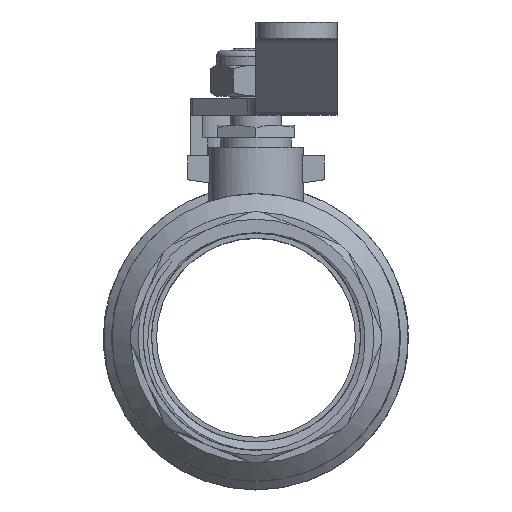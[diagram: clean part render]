
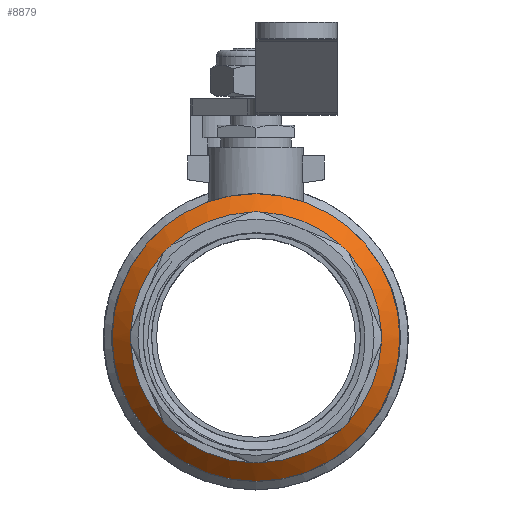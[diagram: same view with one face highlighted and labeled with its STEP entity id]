
A CAD part, top view. The second image highlights one B-rep face of the part: STEP entity #8879.
In plain terms, the highlighted conical face has half-angle 45 degrees and reference radius 36.532 mm.
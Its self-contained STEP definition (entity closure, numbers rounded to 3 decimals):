
#148=FACE_BOUND('',#1867,.T.);
#171=CONICAL_SURFACE('',#9562,36.532,0.785);
#541=CIRCLE('',#9171,39.032);
#641=CIRCLE('',#9399,34.032);
#642=CIRCLE('',#9401,34.032);
#643=CIRCLE('',#9403,34.032);
#644=CIRCLE('',#9405,34.032);
#645=CIRCLE('',#9407,34.032);
#646=CIRCLE('',#9409,34.032);
#647=CIRCLE('',#9411,34.032);
#648=CIRCLE('',#9413,34.032);
#650=CIRCLE('',#9424,34.032);
#651=CIRCLE('',#9426,34.032);
#653=CIRCLE('',#9429,34.032);
#655=CIRCLE('',#9432,34.032);
#657=CIRCLE('',#9435,34.032);
#659=CIRCLE('',#9438,34.032);
#661=CIRCLE('',#9441,34.032);
#711=CIRCLE('',#9561,34.032);
#1293=FACE_OUTER_BOUND('',#1866,.T.);
#1866=EDGE_LOOP('',(#8177));
#1867=EDGE_LOOP('',(#8178,#8179,#8180,#8181,#8182,#8183,#8184,#8185,#8186,
#8187,#8188,#8189,#8190,#8191,#8192,#8193));
#3862=VERTEX_POINT('',#20008);
#4158=VERTEX_POINT('',#23225);
#4159=VERTEX_POINT('',#23226);
#4160=VERTEX_POINT('',#23230);
#4161=VERTEX_POINT('',#23231);
#4162=VERTEX_POINT('',#23235);
#4163=VERTEX_POINT('',#23236);
#4164=VERTEX_POINT('',#23240);
#4165=VERTEX_POINT('',#23241);
#4166=VERTEX_POINT('',#23245);
#4167=VERTEX_POINT('',#23246);
#4168=VERTEX_POINT('',#23250);
#4169=VERTEX_POINT('',#23251);
#4170=VERTEX_POINT('',#23255);
#4171=VERTEX_POINT('',#23256);
#4172=VERTEX_POINT('',#23260);
#4173=VERTEX_POINT('',#23261);
#4935=EDGE_CURVE('',#3862,#3862,#541,.T.);
#5392=EDGE_CURVE('',#4158,#4159,#641,.T.);
#5394=EDGE_CURVE('',#4160,#4161,#642,.T.);
#5396=EDGE_CURVE('',#4162,#4163,#643,.T.);
#5398=EDGE_CURVE('',#4164,#4165,#644,.T.);
#5400=EDGE_CURVE('',#4166,#4167,#645,.T.);
#5402=EDGE_CURVE('',#4168,#4169,#646,.T.);
#5404=EDGE_CURVE('',#4170,#4171,#647,.T.);
#5406=EDGE_CURVE('',#4172,#4173,#648,.T.);
#5441=EDGE_CURVE('',#4173,#4158,#650,.T.);
#5442=EDGE_CURVE('',#4159,#4160,#651,.T.);
#5444=EDGE_CURVE('',#4161,#4162,#653,.T.);
#5446=EDGE_CURVE('',#4163,#4164,#655,.T.);
#5448=EDGE_CURVE('',#4165,#4166,#657,.T.);
#5450=EDGE_CURVE('',#4167,#4168,#659,.T.);
#5452=EDGE_CURVE('',#4169,#4170,#661,.T.);
#5587=EDGE_CURVE('',#4171,#4172,#711,.T.);
#8177=ORIENTED_EDGE('',*,*,#4935,.F.);
#8178=ORIENTED_EDGE('',*,*,#5452,.T.);
#8179=ORIENTED_EDGE('',*,*,#5404,.T.);
#8180=ORIENTED_EDGE('',*,*,#5587,.T.);
#8181=ORIENTED_EDGE('',*,*,#5406,.T.);
#8182=ORIENTED_EDGE('',*,*,#5441,.T.);
#8183=ORIENTED_EDGE('',*,*,#5392,.T.);
#8184=ORIENTED_EDGE('',*,*,#5442,.T.);
#8185=ORIENTED_EDGE('',*,*,#5394,.T.);
#8186=ORIENTED_EDGE('',*,*,#5444,.T.);
#8187=ORIENTED_EDGE('',*,*,#5396,.T.);
#8188=ORIENTED_EDGE('',*,*,#5446,.T.);
#8189=ORIENTED_EDGE('',*,*,#5398,.T.);
#8190=ORIENTED_EDGE('',*,*,#5448,.T.);
#8191=ORIENTED_EDGE('',*,*,#5400,.T.);
#8192=ORIENTED_EDGE('',*,*,#5450,.T.);
#8193=ORIENTED_EDGE('',*,*,#5402,.T.);
#8879=ADVANCED_FACE('',(#1293,#148),#171,.T.);
#9171=AXIS2_PLACEMENT_3D('',#20009,#10422,#10423);
#9399=AXIS2_PLACEMENT_3D('',#23227,#11082,#11083);
#9401=AXIS2_PLACEMENT_3D('',#23232,#11087,#11088);
#9403=AXIS2_PLACEMENT_3D('',#23237,#11092,#11093);
#9405=AXIS2_PLACEMENT_3D('',#23242,#11097,#11098);
#9407=AXIS2_PLACEMENT_3D('',#23247,#11102,#11103);
#9409=AXIS2_PLACEMENT_3D('',#23252,#11107,#11108);
#9411=AXIS2_PLACEMENT_3D('',#23257,#11112,#11113);
#9413=AXIS2_PLACEMENT_3D('',#23262,#11117,#11118);
#9424=AXIS2_PLACEMENT_3D('',#23354,#11156,#11157);
#9426=AXIS2_PLACEMENT_3D('',#23356,#11160,#11161);
#9429=AXIS2_PLACEMENT_3D('',#23359,#11166,#11167);
#9432=AXIS2_PLACEMENT_3D('',#23362,#11172,#11173);
#9435=AXIS2_PLACEMENT_3D('',#23365,#11178,#11179);
#9438=AXIS2_PLACEMENT_3D('',#23368,#11184,#11185);
#9441=AXIS2_PLACEMENT_3D('',#23371,#11190,#11191);
#9561=AXIS2_PLACEMENT_3D('',#23755,#11495,#11496);
#9562=AXIS2_PLACEMENT_3D('',#23756,#11497,#11498);
#10422=DIRECTION('center_axis',(0.,0.,-1.));
#10423=DIRECTION('ref_axis',(1.,0.,0.));
#11082=DIRECTION('center_axis',(0.,0.,-1.));
#11083=DIRECTION('ref_axis',(1.,0.,0.));
#11087=DIRECTION('center_axis',(0.,0.,-1.));
#11088=DIRECTION('ref_axis',(1.,0.,0.));
#11092=DIRECTION('center_axis',(0.,0.,-1.));
#11093=DIRECTION('ref_axis',(1.,0.,0.));
#11097=DIRECTION('center_axis',(0.,0.,-1.));
#11098=DIRECTION('ref_axis',(1.,0.,0.));
#11102=DIRECTION('center_axis',(0.,0.,-1.));
#11103=DIRECTION('ref_axis',(1.,0.,0.));
#11107=DIRECTION('center_axis',(0.,0.,-1.));
#11108=DIRECTION('ref_axis',(1.,0.,0.));
#11112=DIRECTION('center_axis',(0.,0.,-1.));
#11113=DIRECTION('ref_axis',(1.,0.,0.));
#11117=DIRECTION('center_axis',(0.,0.,-1.));
#11118=DIRECTION('ref_axis',(1.,0.,0.));
#11156=DIRECTION('center_axis',(0.,0.,-1.));
#11157=DIRECTION('ref_axis',(1.,0.,0.));
#11160=DIRECTION('center_axis',(0.,0.,-1.));
#11161=DIRECTION('ref_axis',(1.,0.,0.));
#11166=DIRECTION('center_axis',(0.,0.,-1.));
#11167=DIRECTION('ref_axis',(1.,0.,0.));
#11172=DIRECTION('center_axis',(0.,0.,-1.));
#11173=DIRECTION('ref_axis',(1.,0.,0.));
#11178=DIRECTION('center_axis',(0.,0.,-1.));
#11179=DIRECTION('ref_axis',(1.,0.,0.));
#11184=DIRECTION('center_axis',(0.,0.,-1.));
#11185=DIRECTION('ref_axis',(1.,0.,0.));
#11190=DIRECTION('center_axis',(0.,0.,-1.));
#11191=DIRECTION('ref_axis',(1.,0.,0.));
#11495=DIRECTION('center_axis',(0.,0.,-1.));
#11496=DIRECTION('ref_axis',(1.,0.,0.));
#11497=DIRECTION('center_axis',(0.,0.,-1.));
#11498=DIRECTION('ref_axis',(0.,-1.,0.));
#20008=CARTESIAN_POINT('',(0.,-39.032,30.86));
#20009=CARTESIAN_POINT('Origin',(0.,0.,30.86));
#23225=CARTESIAN_POINT('',(-33.997,1.544,35.86));
#23226=CARTESIAN_POINT('',(-25.131,22.948,35.86));
#23227=CARTESIAN_POINT('Origin',(0.,0.,35.86));
#23230=CARTESIAN_POINT('',(-22.948,25.131,35.86));
#23231=CARTESIAN_POINT('',(-1.544,33.997,35.86));
#23232=CARTESIAN_POINT('Origin',(0.,0.,35.86));
#23235=CARTESIAN_POINT('',(1.544,33.997,35.86));
#23236=CARTESIAN_POINT('',(22.948,25.131,35.86));
#23237=CARTESIAN_POINT('Origin',(0.,0.,35.86));
#23240=CARTESIAN_POINT('',(25.131,22.948,35.86));
#23241=CARTESIAN_POINT('',(33.997,1.544,35.86));
#23242=CARTESIAN_POINT('Origin',(0.,0.,35.86));
#23245=CARTESIAN_POINT('',(33.997,-1.544,35.86));
#23246=CARTESIAN_POINT('',(25.131,-22.948,35.86));
#23247=CARTESIAN_POINT('Origin',(0.,0.,35.86));
#23250=CARTESIAN_POINT('',(22.948,-25.131,35.86));
#23251=CARTESIAN_POINT('',(1.544,-33.997,35.86));
#23252=CARTESIAN_POINT('Origin',(0.,0.,35.86));
#23255=CARTESIAN_POINT('',(-1.544,-33.997,35.86));
#23256=CARTESIAN_POINT('',(-22.948,-25.131,35.86));
#23257=CARTESIAN_POINT('Origin',(0.,0.,35.86));
#23260=CARTESIAN_POINT('',(-25.131,-22.948,35.86));
#23261=CARTESIAN_POINT('',(-33.997,-1.544,35.86));
#23262=CARTESIAN_POINT('Origin',(0.,0.,35.86));
#23354=CARTESIAN_POINT('Origin',(0.,0.,35.86));
#23356=CARTESIAN_POINT('Origin',(0.,0.,35.86));
#23359=CARTESIAN_POINT('Origin',(0.,0.,35.86));
#23362=CARTESIAN_POINT('Origin',(0.,0.,35.86));
#23365=CARTESIAN_POINT('Origin',(0.,0.,35.86));
#23368=CARTESIAN_POINT('Origin',(0.,0.,35.86));
#23371=CARTESIAN_POINT('Origin',(0.,0.,35.86));
#23755=CARTESIAN_POINT('Origin',(0.,0.,35.86));
#23756=CARTESIAN_POINT('Origin',(0.,0.,33.36));
